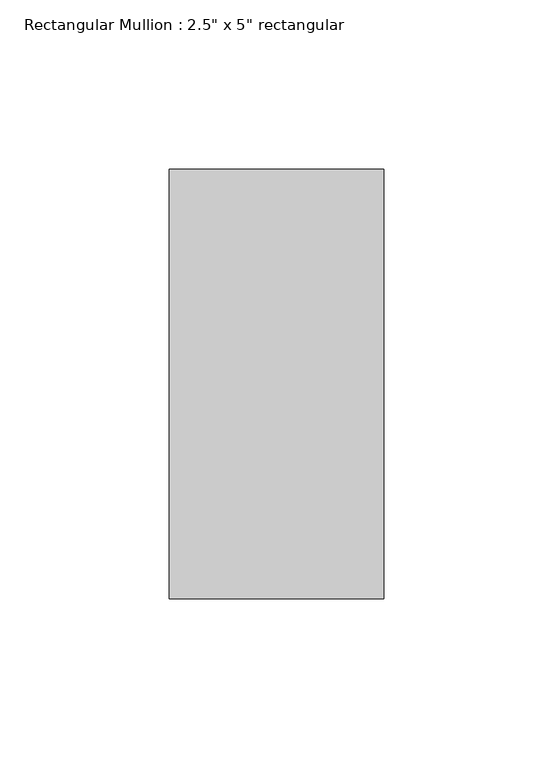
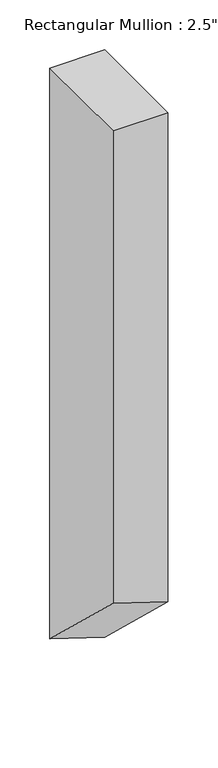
"""IFC4 building model written with IfcOpenShell, lengths in millimetres: member geometry."""

from ifc_helpers import new_model, si_unit, origin, place, context, project, spatial, faceted_brep, source, transform, mapped, element, save


def member_0dd9e943(model_context):
    return source(origin(), model_context, "Body", "Brep", [
        faceted_brep([(0.0, 63.5, 0.0), (-63.5, 63.5, 0.0), (-63.5, -63.5, 0.0), (0.0, -63.5, 0.0), (0.0, 63.5, -719.1413894), (-63.5, 63.5, -699.0609263), (-63.5, -63.5, -578.5781474), (0.0, -63.5, -598.6586106)], [[[0, 1, 2, 3]], [[1, 0, 4, 5]], [[2, 1, 5, 6]], [[3, 2, 6, 7]], [[0, 3, 7, 4]], [[4, 7, 6, 5]]]),
    ])


if __name__ == "__main__":
    model = new_model("IFC4")
    model_context = context("Model", 3, world=origin())
    ifc_project = project(units=[si_unit("LENGTHUNIT", "METRE", prefix="MILLI")], contexts=[model_context])
    site = spatial("IfcSite", under=ifc_project)
    building = spatial("IfcBuilding", under=site)
    placement = place(None, origin())
    member_shape = member_0dd9e943(model_context)
    element("IfcMember", 1, ObjectType="Rectangular Mullion : 2.5\" x 5\" rectangular", at=placement, inside=building, context=model_context, shape_type="MappedRepresentation", body=[
        mapped(member_shape, transform((0.0, 0.0, 0.0), x_axis=(1.0, 0.0, 0.0), y_axis=(0.0, 1.0, 0.0), z_axis=(0.0, 0.0, 1.0))),
    ])
    save(model, "model.ifc")
